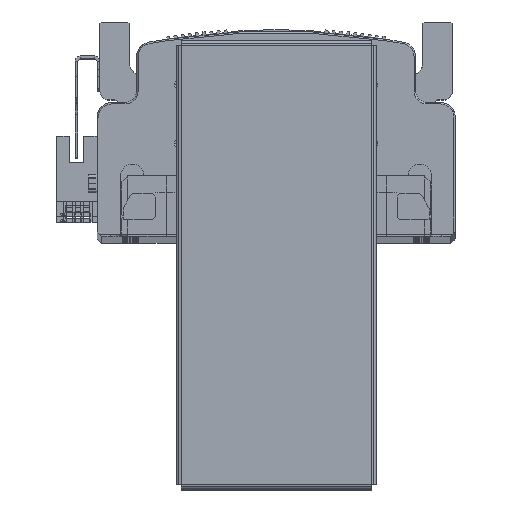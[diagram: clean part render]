
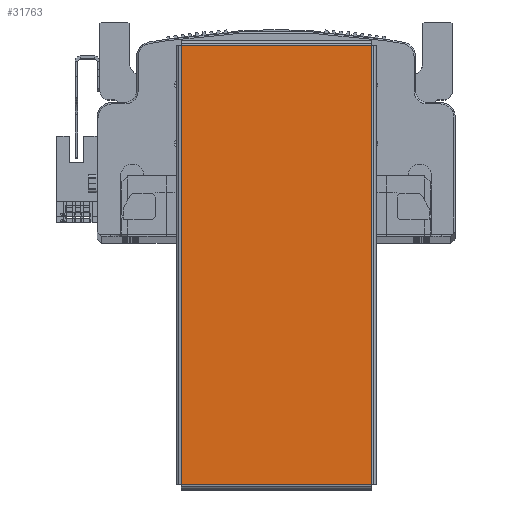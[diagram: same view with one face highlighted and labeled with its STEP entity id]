
A CAD part, top view. The second image highlights one B-rep face of the part: STEP entity #31763.
In plain terms, the highlighted planar face has unit normal (0, 0, 1) as drawn and (0, 0, -1) by its records, which use the part's own axes.
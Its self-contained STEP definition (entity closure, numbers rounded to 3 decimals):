
#457 = PLANE ( 'NONE',  #106027 ) ;
#466 = CARTESIAN_POINT ( 'NONE',  ( 0., 0., -1. ) ) ;
#469 = DIRECTION ( 'NONE',  ( 0., 0., 1. ) ) ;
#474 = DIRECTION ( 'NONE',  ( 1., 0., 0. ) ) ;
#11321 = VERTEX_POINT ( 'NONE', #104281 ) ;
#11336 = VERTEX_POINT ( 'NONE', #104284 ) ;
#11384 = VERTEX_POINT ( 'NONE', #104280 ) ;
#11441 = VERTEX_POINT ( 'NONE', #104345 ) ;
#12676 = FACE_OUTER_BOUND ( 'NONE', #23276, .T. ) ;
#23276 = EDGE_LOOP ( 'NONE', ( #100603, #100761, #100776, #100740 ) ) ;
#24341 = DIRECTION ( 'NONE',  ( 0., -1., 0. ) ) ;
#24376 = CARTESIAN_POINT ( 'NONE',  ( 74.763, 32.393, -1. ) ) ;
#24404 = DIRECTION ( 'NONE',  ( 1., 0., 0. ) ) ;
#24428 = CARTESIAN_POINT ( 'NONE',  ( -74.793, 32.363, -1. ) ) ;
#24676 = DIRECTION ( 'NONE',  ( -1., 0., 0. ) ) ;
#24696 = CARTESIAN_POINT ( 'NONE',  ( 74.793, -32.363, -1. ) ) ;
#31763 = ADVANCED_FACE ( 'NONE', ( #12676 ), #457, .F. ) ;
#32223 = EDGE_CURVE ( 'NONE', #11321, #11441, #77695, .T. ) ;
#32366 = EDGE_CURVE ( 'NONE', #11384, #11336, #78129, .T. ) ;
#32397 = EDGE_CURVE ( 'NONE', #11441, #11384, #78257, .T. ) ;
#32467 = EDGE_CURVE ( 'NONE', #11336, #11321, #78339, .T. ) ;
#77695 = LINE ( 'NONE', #96680, #77777 ) ;
#77777 = VECTOR ( 'NONE', #96682, 1000. ) ;
#78117 = VECTOR ( 'NONE', #24341, 1000. ) ;
#78129 = LINE ( 'NONE', #24376, #78117 ) ;
#78257 = LINE ( 'NONE', #24428, #78277 ) ;
#78277 = VECTOR ( 'NONE', #24404, 1000. ) ;
#78339 = LINE ( 'NONE', #24696, #78355 ) ;
#78355 = VECTOR ( 'NONE', #24676, 1000. ) ;
#96680 = CARTESIAN_POINT ( 'NONE',  ( -74.763, -32.393, -1. ) ) ;
#96682 = DIRECTION ( 'NONE',  ( 0., 1., 0. ) ) ;
#100603 = ORIENTED_EDGE ( 'NONE', *, *, #32366, .T. ) ;
#100740 = ORIENTED_EDGE ( 'NONE', *, *, #32397, .T. ) ;
#100761 = ORIENTED_EDGE ( 'NONE', *, *, #32467, .T. ) ;
#100776 = ORIENTED_EDGE ( 'NONE', *, *, #32223, .T. ) ;
#104280 = CARTESIAN_POINT ( 'NONE',  ( 74.763, 32.363, -1. ) ) ;
#104281 = CARTESIAN_POINT ( 'NONE',  ( -74.763, -32.363, -1. ) ) ;
#104284 = CARTESIAN_POINT ( 'NONE',  ( 74.763, -32.363, -1. ) ) ;
#104345 = CARTESIAN_POINT ( 'NONE',  ( -74.763, 32.363, -1. ) ) ;
#106027 = AXIS2_PLACEMENT_3D ( 'NONE', #466, #469, #474 ) ;
